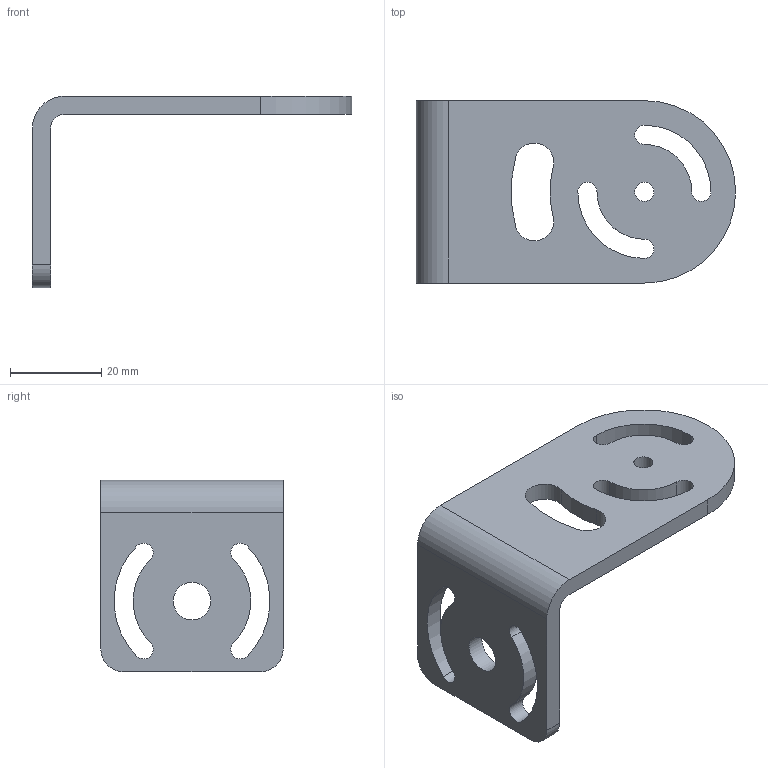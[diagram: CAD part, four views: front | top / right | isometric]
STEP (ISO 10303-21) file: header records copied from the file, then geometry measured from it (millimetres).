
FILE_DESCRIPTION(/* description */ (''),/* implementation_level */ '2;1');
FILE_NAME(/* name */ '281037600.stp',/* time_stamp */ '2021-12-06T14:00:07+01:00',/* author */ (''),/* organization */ (''),/* preprocessor_version */ 'ST-DEVELOPER v16.7',/* originating_system */ 'SIEMENS PLM Software NX 1946',/* authorisation */ '');
FILE_SCHEMA (('AUTOMOTIVE_DESIGN { 1 0 10303 214 3 1 1 1 }'));
Length unit declared in the file: millimetre
Products named in the file (1): MGia3D649DCEoph6
Bounding box: 70 x 40 x 42 mm (x, y, z)
Volume: 13592.6 mm3; surface area: 9147.6 mm2
Topology: 1 solids, 1 shells, 34 faces, 97 edges, 65 vertices
Faces by surface type: cylinder 27, plane 7
Full cylindrical faces by diameter (mm): 4.2 x1, 8.25 x1
Entity records: 1184 total; most frequent: DIRECTION 218, CARTESIAN_POINT 193, ORIENTED_EDGE 188, EDGE_CURVE 94, AXIS2_PLACEMENT_3D 89, VERTEX_POINT 64, CIRCLE 54, EDGE_LOOP 50
